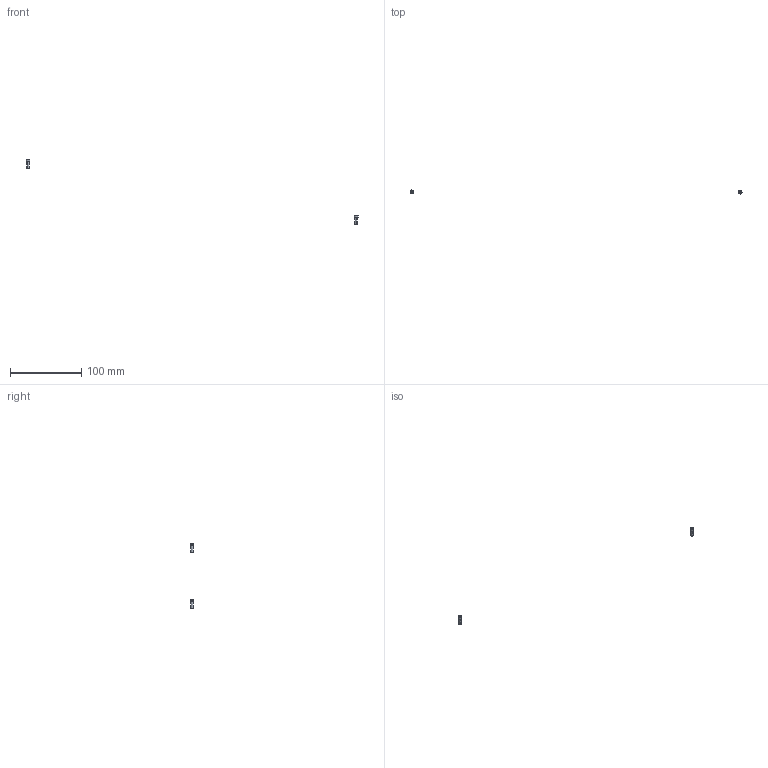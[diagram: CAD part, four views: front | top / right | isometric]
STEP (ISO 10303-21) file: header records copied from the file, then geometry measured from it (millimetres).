
FILE_DESCRIPTION(/* description */ (''),/* implementation_level */ '2;1');
FILE_NAME(/* name */ '8.x-drive#8.8#CB3-10',/* time_stamp */ '2014-12-01T20:18:28+01:00',/* author */ (''),/* organization */ (''),/* preprocessor_version */ 'ST-DEVELOPER v14',/* originating_system */ '',/* authorisation */ '');
FILE_SCHEMA (('AUTOMOTIVE_DESIGN'));
Length unit declared in the file: millimetre
Products named in the file (2): Document; screw DIN912-like, M3x10
Assembly tree (2 placements, depth 2):
  Document
    screw DIN912-like, M3x10  x2
Bounding box: 467.5 x 5.5 x 92 mm (x, y, z)
Volume: 264.9 mm3; surface area: 403.7 mm2
Topology: 2 solids, 2 shells, 50 faces, 112 edges, 66 vertices
Faces by surface type: plane 30, bspline 20
Entity records: 1413 total; most frequent: CARTESIAN_POINT 633, B_SPLINE_CURVE_WITH_KNOTS 126, ORIENTED_EDGE 108, PCURVE 108, DEFINITIONAL_REPRESENTATION 108, SURFACE_CURVE 54, EDGE_CURVE 54, VERTEX_POINT 33
